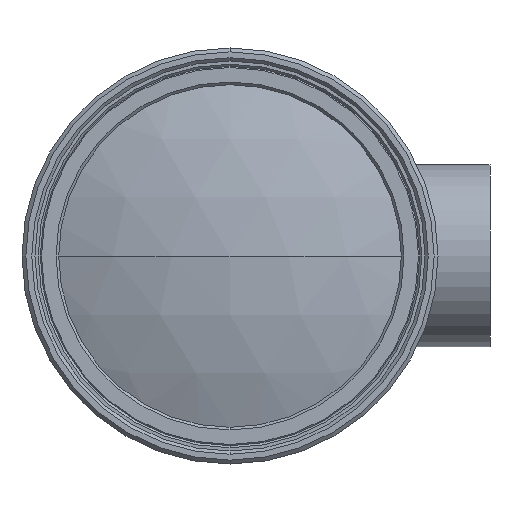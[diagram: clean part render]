
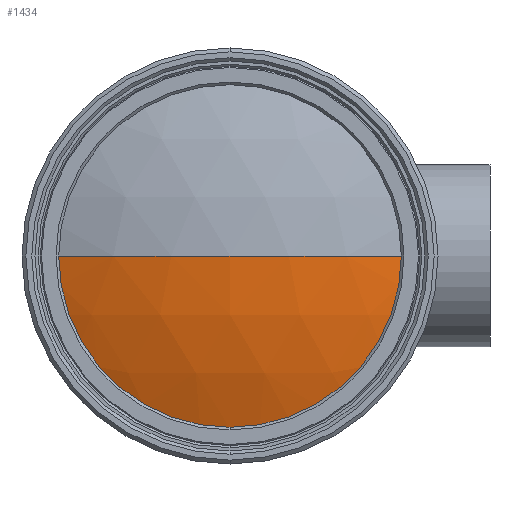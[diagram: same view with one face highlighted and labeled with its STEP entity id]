
A CAD part, left-side view. The second image highlights one B-rep face of the part: STEP entity #1434.
In plain terms, the highlighted spherical face has radius 36.1 mm.
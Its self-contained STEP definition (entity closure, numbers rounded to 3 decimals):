
#37 = EDGE_CURVE ( 'NONE', #1129, #813, #3169, .T. ) ;
#183 = DIRECTION ( 'NONE',  ( 0., 0., -1. ) ) ;
#260 = CARTESIAN_POINT ( 'NONE',  ( 5.406, 13.28, 0. ) ) ;
#410 = CARTESIAN_POINT ( 'NONE',  ( 38.975, 0., 0. ) ) ;
#416 = CARTESIAN_POINT ( 'NONE',  ( 5.406, 0., 0. ) ) ;
#516 = DIRECTION ( 'NONE',  ( -1., 0., 0. ) ) ;
#637 = FACE_OUTER_BOUND ( 'NONE', #833, .T. ) ;
#658 = DIRECTION ( 'NONE',  ( 0., 0., 1. ) ) ;
#670 = DIRECTION ( 'NONE',  ( 0., 0., 1. ) ) ;
#813 = VERTEX_POINT ( 'NONE', #1813 ) ;
#833 = EDGE_LOOP ( 'NONE', ( #2772, #3110, #1765, #2689 ) ) ;
#915 = DIRECTION ( 'NONE',  ( 0., 1., 0. ) ) ;
#1025 = CIRCLE ( 'NONE', #1976, 13.28 ) ;
#1027 = CIRCLE ( 'NONE', #1110, 13.28 ) ;
#1110 = AXIS2_PLACEMENT_3D ( 'NONE', #416, #2211, #670 ) ;
#1129 = VERTEX_POINT ( 'NONE', #260 ) ;
#1310 = SPHERICAL_SURFACE ( 'NONE', #2238, 36.1 ) ;
#1311 = VERTEX_POINT ( 'NONE', #1861 ) ;
#1315 = CIRCLE ( 'NONE', #1507, 36.1 ) ;
#1434 = ADVANCED_FACE ( 'NONE', ( #637 ), #1310, .T. ) ;
#1507 = AXIS2_PLACEMENT_3D ( 'NONE', #1705, #183, #1958 ) ;
#1705 = CARTESIAN_POINT ( 'NONE',  ( 38.975, 0., 0. ) ) ;
#1765 = ORIENTED_EDGE ( 'NONE', *, *, #37, .F. ) ;
#1813 = CARTESIAN_POINT ( 'NONE',  ( 2.875, 0., 0. ) ) ;
#1861 = CARTESIAN_POINT ( 'NONE',  ( 5.406, -13.28, 0. ) ) ;
#1958 = DIRECTION ( 'NONE',  ( 0., 1., 0. ) ) ;
#1976 = AXIS2_PLACEMENT_3D ( 'NONE', #2051, #516, #2310 ) ;
#2051 = CARTESIAN_POINT ( 'NONE',  ( 5.406, 0., 0. ) ) ;
#2191 = CARTESIAN_POINT ( 'NONE',  ( 38.975, 0., 0. ) ) ;
#2211 = DIRECTION ( 'NONE',  ( -1., 0., 0. ) ) ;
#2238 = AXIS2_PLACEMENT_3D ( 'NONE', #410, #3220, #915 ) ;
#2310 = DIRECTION ( 'NONE',  ( 0., 0., 1. ) ) ;
#2436 = EDGE_CURVE ( 'NONE', #1129, #2933, #1027, .T. ) ;
#2456 = DIRECTION ( 'NONE',  ( 1., 0., 0. ) ) ;
#2569 = AXIS2_PLACEMENT_3D ( 'NONE', #2191, #658, #2456 ) ;
#2689 = ORIENTED_EDGE ( 'NONE', *, *, #2436, .T. ) ;
#2772 = ORIENTED_EDGE ( 'NONE', *, *, #2948, .T. ) ;
#2933 = VERTEX_POINT ( 'NONE', #3314 ) ;
#2948 = EDGE_CURVE ( 'NONE', #2933, #1311, #1025, .T. ) ;
#3110 = ORIENTED_EDGE ( 'NONE', *, *, #3295, .T. ) ;
#3169 = CIRCLE ( 'NONE', #2569, 36.1 ) ;
#3220 = DIRECTION ( 'NONE',  ( 0., 0., -1. ) ) ;
#3295 = EDGE_CURVE ( 'NONE', #1311, #813, #1315, .T. ) ;
#3314 = CARTESIAN_POINT ( 'NONE',  ( 5.406, 0., -13.28 ) ) ;
